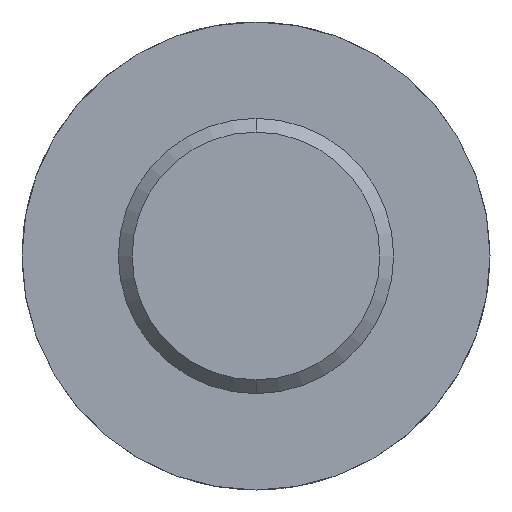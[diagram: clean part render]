
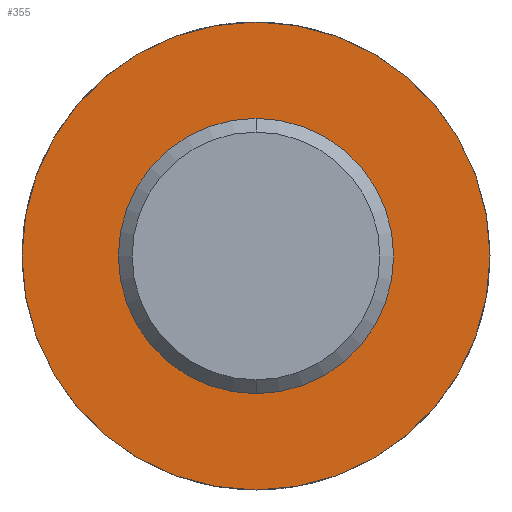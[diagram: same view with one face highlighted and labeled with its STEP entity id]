
A CAD part, front view. The second image highlights one B-rep face of the part: STEP entity #355.
In plain terms, the highlighted planar face has unit normal (0, -1, 0).
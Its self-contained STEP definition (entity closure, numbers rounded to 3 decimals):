
#9 = AXIS2_PLACEMENT_3D ( 'NONE', #328, #241, #335 ) ;
#17 = PLANE ( 'NONE',  #254 ) ;
#18 = CARTESIAN_POINT ( 'NONE',  ( 0., 0., -3.4 ) ) ;
#19 = DIRECTION ( 'NONE',  ( 0., 0., -1. ) ) ;
#22 = AXIS2_PLACEMENT_3D ( 'NONE', #318, #262, #191 ) ;
#24 = CARTESIAN_POINT ( 'NONE',  ( 0., 0., -2. ) ) ;
#34 = ORIENTED_EDGE ( 'NONE', *, *, #496, .F. ) ;
#35 = AXIS2_PLACEMENT_3D ( 'NONE', #110, #65, #64 ) ;
#57 = EDGE_LOOP ( 'NONE', ( #34, #545 ) ) ;
#59 = EDGE_CURVE ( 'NONE', #270, #227, #363, .T. ) ;
#60 = AXIS2_PLACEMENT_3D ( 'NONE', #131, #162, #204 ) ;
#64 = DIRECTION ( 'NONE',  ( 0., 0., 1. ) ) ;
#65 = DIRECTION ( 'NONE',  ( 0., 1., 0. ) ) ;
#68 = EDGE_CURVE ( 'NONE', #271, #173, #370, .T. ) ;
#81 = CIRCLE ( 'NONE', #35, 3.4 ) ;
#82 = EDGE_CURVE ( 'NONE', #227, #270, #226, .T. ) ;
#105 = CARTESIAN_POINT ( 'NONE',  ( 0., 0., 2. ) ) ;
#110 = CARTESIAN_POINT ( 'NONE',  ( 0., 0., 0. ) ) ;
#131 = CARTESIAN_POINT ( 'NONE',  ( 0., 0., 0. ) ) ;
#162 = DIRECTION ( 'NONE',  ( 0., -1., 0. ) ) ;
#165 = DIRECTION ( 'NONE',  ( 0., -1., 0. ) ) ;
#173 = VERTEX_POINT ( 'NONE', #256 ) ;
#191 = DIRECTION ( 'NONE',  ( 0., 0., 1. ) ) ;
#204 = DIRECTION ( 'NONE',  ( 0., 0., -1. ) ) ;
#206 = EDGE_LOOP ( 'NONE', ( #526, #264 ) ) ;
#226 = CIRCLE ( 'NONE', #9, 2. ) ;
#227 = VERTEX_POINT ( 'NONE', #105 ) ;
#241 = DIRECTION ( 'NONE',  ( 0., -1., 0. ) ) ;
#254 = AXIS2_PLACEMENT_3D ( 'NONE', #488, #165, #19 ) ;
#256 = CARTESIAN_POINT ( 'NONE',  ( 0., 0., 3.4 ) ) ;
#262 = DIRECTION ( 'NONE',  ( 0., 1., 0. ) ) ;
#264 = ORIENTED_EDGE ( 'NONE', *, *, #59, .F. ) ;
#270 = VERTEX_POINT ( 'NONE', #24 ) ;
#271 = VERTEX_POINT ( 'NONE', #18 ) ;
#297 = FACE_BOUND ( 'NONE', #206, .T. ) ;
#318 = CARTESIAN_POINT ( 'NONE',  ( 0., 0., 0. ) ) ;
#328 = CARTESIAN_POINT ( 'NONE',  ( 0., 0., 0. ) ) ;
#335 = DIRECTION ( 'NONE',  ( 0., 0., -1. ) ) ;
#355 = ADVANCED_FACE ( 'NONE', ( #473, #297 ), #17, .T. ) ;
#363 = CIRCLE ( 'NONE', #60, 2. ) ;
#370 = CIRCLE ( 'NONE', #22, 3.4 ) ;
#473 = FACE_OUTER_BOUND ( 'NONE', #57, .T. ) ;
#488 = CARTESIAN_POINT ( 'NONE',  ( -3.4, 0., 0. ) ) ;
#496 = EDGE_CURVE ( 'NONE', #173, #271, #81, .T. ) ;
#526 = ORIENTED_EDGE ( 'NONE', *, *, #82, .F. ) ;
#545 = ORIENTED_EDGE ( 'NONE', *, *, #68, .F. ) ;
